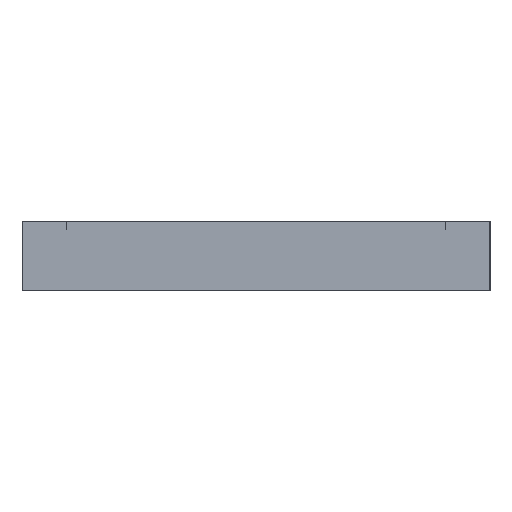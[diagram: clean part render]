
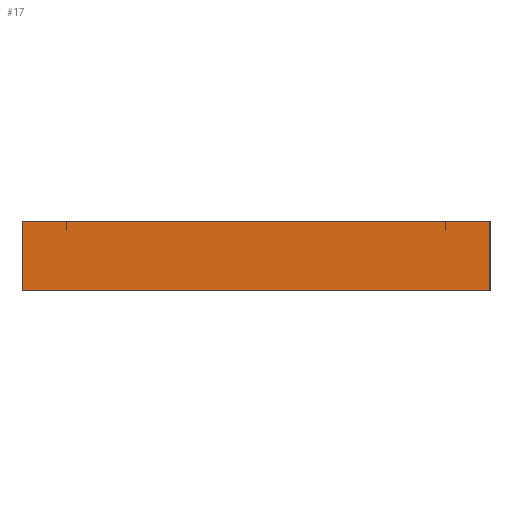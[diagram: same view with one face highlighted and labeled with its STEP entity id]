
A CAD part, left-side view. The second image highlights one B-rep face of the part: STEP entity #17.
In plain terms, the highlighted planar face has unit normal (-1, 0, 0).
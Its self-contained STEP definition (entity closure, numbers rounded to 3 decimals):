
#17 = ADVANCED_FACE('',(#18),#32,.F.);
#18 = FACE_BOUND('',#19,.F.);
#19 = EDGE_LOOP('',(#20,#55,#83,#111));
#20 = ORIENTED_EDGE('',*,*,#21,.F.);
#21 = EDGE_CURVE('',#22,#24,#26,.T.);
#22 = VERTEX_POINT('',#23);
#23 = CARTESIAN_POINT('',(-105.,-21.,0.));
#24 = VERTEX_POINT('',#25);
#25 = CARTESIAN_POINT('',(-105.,-21.,6.25));
#26 = SURFACE_CURVE('',#27,(#31,#43),.PCURVE_S1.);
#27 = LINE('',#28,#29);
#28 = CARTESIAN_POINT('',(-105.,-21.,0.));
#29 = VECTOR('',#30,1.);
#30 = DIRECTION('',(0.,0.,1.));
#31 = PCURVE('',#32,#37);
#32 = PLANE('',#33);
#33 = AXIS2_PLACEMENT_3D('',#34,#35,#36);
#34 = CARTESIAN_POINT('',(-105.,-21.,0.));
#35 = DIRECTION('',(1.,0.,-0.));
#36 = DIRECTION('',(0.,0.,1.));
#37 = DEFINITIONAL_REPRESENTATION('',(#38),#42);
#38 = LINE('',#39,#40);
#39 = CARTESIAN_POINT('',(0.,0.));
#40 = VECTOR('',#41,1.);
#41 = DIRECTION('',(1.,0.));
#42 = ( GEOMETRIC_REPRESENTATION_CONTEXT(2) 
PARAMETRIC_REPRESENTATION_CONTEXT() REPRESENTATION_CONTEXT('2D SPACE',''
  ) );
#43 = PCURVE('',#44,#49);
#44 = PLANE('',#45);
#45 = AXIS2_PLACEMENT_3D('',#46,#47,#48);
#46 = CARTESIAN_POINT('',(-105.,-21.,0.));
#47 = DIRECTION('',(-0.,1.,0.));
#48 = DIRECTION('',(0.,0.,1.));
#49 = DEFINITIONAL_REPRESENTATION('',(#50),#54);
#50 = LINE('',#51,#52);
#51 = CARTESIAN_POINT('',(0.,0.));
#52 = VECTOR('',#53,1.);
#53 = DIRECTION('',(1.,0.));
#54 = ( GEOMETRIC_REPRESENTATION_CONTEXT(2) 
PARAMETRIC_REPRESENTATION_CONTEXT() REPRESENTATION_CONTEXT('2D SPACE',''
  ) );
#55 = ORIENTED_EDGE('',*,*,#56,.T.);
#56 = EDGE_CURVE('',#22,#57,#59,.T.);
#57 = VERTEX_POINT('',#58);
#58 = CARTESIAN_POINT('',(-105.,21.,0.));
#59 = SURFACE_CURVE('',#60,(#64,#71),.PCURVE_S1.);
#60 = LINE('',#61,#62);
#61 = CARTESIAN_POINT('',(-105.,-21.,0.));
#62 = VECTOR('',#63,1.);
#63 = DIRECTION('',(-0.,1.,0.));
#64 = PCURVE('',#32,#65);
#65 = DEFINITIONAL_REPRESENTATION('',(#66),#70);
#66 = LINE('',#67,#68);
#67 = CARTESIAN_POINT('',(0.,0.));
#68 = VECTOR('',#69,1.);
#69 = DIRECTION('',(0.,-1.));
#70 = ( GEOMETRIC_REPRESENTATION_CONTEXT(2) 
PARAMETRIC_REPRESENTATION_CONTEXT() REPRESENTATION_CONTEXT('2D SPACE',''
  ) );
#71 = PCURVE('',#72,#77);
#72 = PLANE('',#73);
#73 = AXIS2_PLACEMENT_3D('',#74,#75,#76);
#74 = CARTESIAN_POINT('',(-105.,-21.,0.));
#75 = DIRECTION('',(0.,0.,1.));
#76 = DIRECTION('',(1.,0.,-0.));
#77 = DEFINITIONAL_REPRESENTATION('',(#78),#82);
#78 = LINE('',#79,#80);
#79 = CARTESIAN_POINT('',(0.,0.));
#80 = VECTOR('',#81,1.);
#81 = DIRECTION('',(0.,1.));
#82 = ( GEOMETRIC_REPRESENTATION_CONTEXT(2) 
PARAMETRIC_REPRESENTATION_CONTEXT() REPRESENTATION_CONTEXT('2D SPACE',''
  ) );
#83 = ORIENTED_EDGE('',*,*,#84,.T.);
#84 = EDGE_CURVE('',#57,#85,#87,.T.);
#85 = VERTEX_POINT('',#86);
#86 = CARTESIAN_POINT('',(-105.,21.,6.25));
#87 = SURFACE_CURVE('',#88,(#92,#99),.PCURVE_S1.);
#88 = LINE('',#89,#90);
#89 = CARTESIAN_POINT('',(-105.,21.,0.));
#90 = VECTOR('',#91,1.);
#91 = DIRECTION('',(0.,0.,1.));
#92 = PCURVE('',#32,#93);
#93 = DEFINITIONAL_REPRESENTATION('',(#94),#98);
#94 = LINE('',#95,#96);
#95 = CARTESIAN_POINT('',(0.,-42.));
#96 = VECTOR('',#97,1.);
#97 = DIRECTION('',(1.,0.));
#98 = ( GEOMETRIC_REPRESENTATION_CONTEXT(2) 
PARAMETRIC_REPRESENTATION_CONTEXT() REPRESENTATION_CONTEXT('2D SPACE',''
  ) );
#99 = PCURVE('',#100,#105);
#100 = PLANE('',#101);
#101 = AXIS2_PLACEMENT_3D('',#102,#103,#104);
#102 = CARTESIAN_POINT('',(-105.,21.,0.));
#103 = DIRECTION('',(-0.,1.,0.));
#104 = DIRECTION('',(0.,0.,1.));
#105 = DEFINITIONAL_REPRESENTATION('',(#106),#110);
#106 = LINE('',#107,#108);
#107 = CARTESIAN_POINT('',(0.,0.));
#108 = VECTOR('',#109,1.);
#109 = DIRECTION('',(1.,0.));
#110 = ( GEOMETRIC_REPRESENTATION_CONTEXT(2) 
PARAMETRIC_REPRESENTATION_CONTEXT() REPRESENTATION_CONTEXT('2D SPACE',''
  ) );
#111 = ORIENTED_EDGE('',*,*,#112,.F.);
#112 = EDGE_CURVE('',#24,#85,#113,.T.);
#113 = SURFACE_CURVE('',#114,(#118,#125),.PCURVE_S1.);
#114 = LINE('',#115,#116);
#115 = CARTESIAN_POINT('',(-105.,-21.,6.25));
#116 = VECTOR('',#117,1.);
#117 = DIRECTION('',(-0.,1.,0.));
#118 = PCURVE('',#32,#119);
#119 = DEFINITIONAL_REPRESENTATION('',(#120),#124);
#120 = LINE('',#121,#122);
#121 = CARTESIAN_POINT('',(6.25,0.));
#122 = VECTOR('',#123,1.);
#123 = DIRECTION('',(0.,-1.));
#124 = ( GEOMETRIC_REPRESENTATION_CONTEXT(2) 
PARAMETRIC_REPRESENTATION_CONTEXT() REPRESENTATION_CONTEXT('2D SPACE',''
  ) );
#125 = PCURVE('',#126,#131);
#126 = PLANE('',#127);
#127 = AXIS2_PLACEMENT_3D('',#128,#129,#130);
#128 = CARTESIAN_POINT('',(-105.,-21.,6.25));
#129 = DIRECTION('',(0.,0.,1.));
#130 = DIRECTION('',(1.,0.,-0.));
#131 = DEFINITIONAL_REPRESENTATION('',(#132),#136);
#132 = LINE('',#133,#134);
#133 = CARTESIAN_POINT('',(0.,0.));
#134 = VECTOR('',#135,1.);
#135 = DIRECTION('',(0.,1.));
#136 = ( GEOMETRIC_REPRESENTATION_CONTEXT(2) 
PARAMETRIC_REPRESENTATION_CONTEXT() REPRESENTATION_CONTEXT('2D SPACE',''
  ) );
